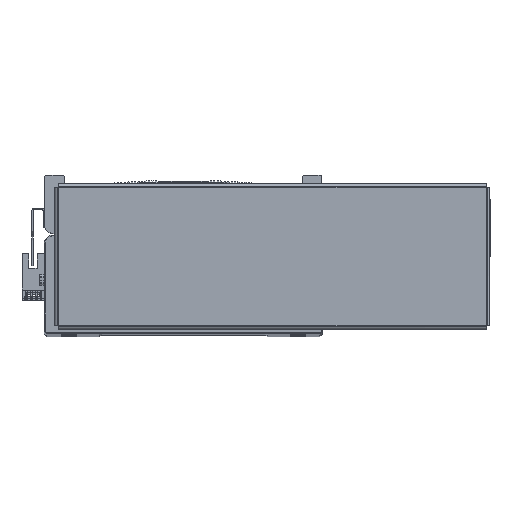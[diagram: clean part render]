
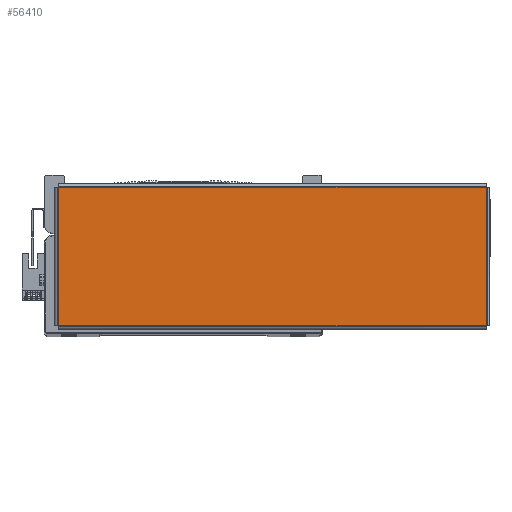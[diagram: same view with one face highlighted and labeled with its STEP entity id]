
A CAD part, top view. The second image highlights one B-rep face of the part: STEP entity #56410.
In plain terms, the highlighted planar face has unit normal (0, 0, 1) as drawn and (0, -1, 0) by its records, which use the part's own axes.
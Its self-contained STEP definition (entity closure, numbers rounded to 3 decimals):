
#3863 = AXIS2_PLACEMENT_3D ( 'NONE', #71059, #71125, #71129 ) ;
#12376 = CARTESIAN_POINT ( 'NONE',  ( 130.863, -1.5, -42.293 ) ) ;
#12388 = DIRECTION ( 'NONE',  ( 0., 0., 1. ) ) ;
#12425 = CARTESIAN_POINT ( 'NONE',  ( -130.863, -1.5, 42.293 ) ) ;
#12435 = DIRECTION ( 'NONE',  ( 0., 0., -1. ) ) ;
#12600 = CARTESIAN_POINT ( 'NONE',  ( -130.893, -1.5, -42.263 ) ) ;
#12609 = DIRECTION ( 'NONE',  ( -1., 0., 0. ) ) ;
#12630 = DIRECTION ( 'NONE',  ( 1., 0., 0. ) ) ;
#12637 = CARTESIAN_POINT ( 'NONE',  ( 130.893, -1.5, 42.263 ) ) ;
#13174 = LINE ( 'NONE', #12376, #13202 ) ;
#13189 = LINE ( 'NONE', #12425, #13190 ) ;
#13190 = VECTOR ( 'NONE', #12435, 1000. ) ;
#13202 = VECTOR ( 'NONE', #12388, 1000. ) ;
#13316 = VECTOR ( 'NONE', #12630, 1000. ) ;
#13319 = LINE ( 'NONE', #12637, #13330 ) ;
#13330 = VECTOR ( 'NONE', #12609, 1000. ) ;
#13332 = LINE ( 'NONE', #12600, #13316 ) ;
#34227 = EDGE_CURVE ( 'NONE', #61329, #61395, #13174, .T. ) ;
#34252 = EDGE_CURVE ( 'NONE', #61419, #61410, #13189, .T. ) ;
#34319 = EDGE_CURVE ( 'NONE', #61410, #61329, #13332, .T. ) ;
#34324 = EDGE_CURVE ( 'NONE', #61395, #61419, #13319, .T. ) ;
#50971 = ORIENTED_EDGE ( 'NONE', *, *, #34227, .T. ) ;
#50977 = ORIENTED_EDGE ( 'NONE', *, *, #34324, .T. ) ;
#51003 = ORIENTED_EDGE ( 'NONE', *, *, #34319, .T. ) ;
#51037 = ORIENTED_EDGE ( 'NONE', *, *, #34252, .T. ) ;
#56410 = ADVANCED_FACE ( 'NONE', ( #71486 ), #71120, .F. ) ;
#58323 = EDGE_LOOP ( 'NONE', ( #50971, #50977, #51037, #51003 ) ) ;
#61329 = VERTEX_POINT ( 'NONE', #72345 ) ;
#61395 = VERTEX_POINT ( 'NONE', #72280 ) ;
#61410 = VERTEX_POINT ( 'NONE', #72327 ) ;
#61419 = VERTEX_POINT ( 'NONE', #72290 ) ;
#71059 = CARTESIAN_POINT ( 'NONE',  ( 0., -1.5, 0. ) ) ;
#71120 = PLANE ( 'NONE',  #3863 ) ;
#71125 = DIRECTION ( 'NONE',  ( 0., 1., 0. ) ) ;
#71129 = DIRECTION ( 'NONE',  ( 0., 0., 1. ) ) ;
#71486 = FACE_OUTER_BOUND ( 'NONE', #58323, .T. ) ;
#72280 = CARTESIAN_POINT ( 'NONE',  ( 130.863, -1.5, 42.263 ) ) ;
#72290 = CARTESIAN_POINT ( 'NONE',  ( -130.863, -1.5, 42.263 ) ) ;
#72327 = CARTESIAN_POINT ( 'NONE',  ( -130.863, -1.5, -42.263 ) ) ;
#72345 = CARTESIAN_POINT ( 'NONE',  ( 130.863, -1.5, -42.263 ) ) ;
